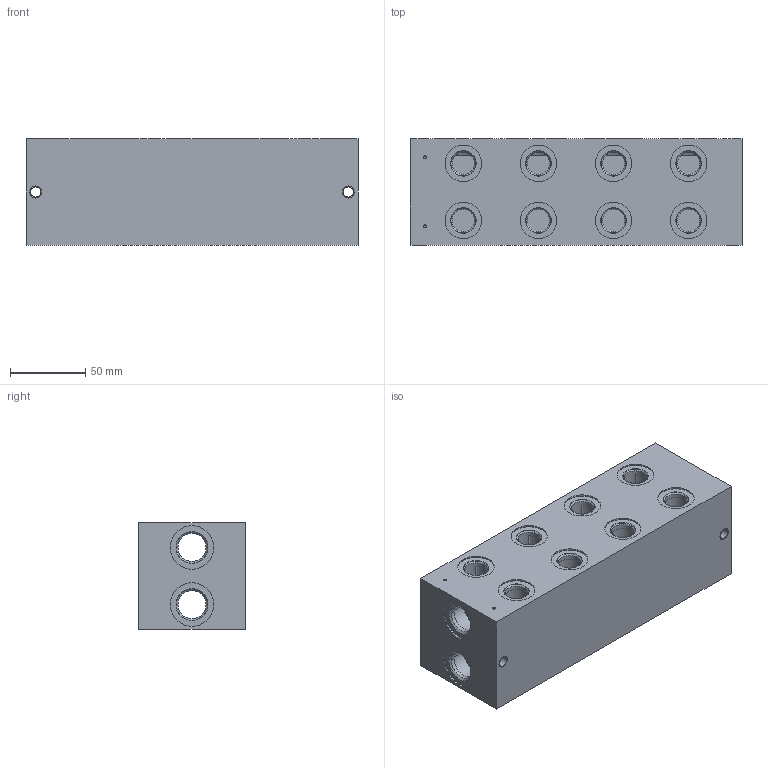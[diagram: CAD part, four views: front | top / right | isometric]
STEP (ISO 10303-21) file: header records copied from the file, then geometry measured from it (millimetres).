
FILE_DESCRIPTION((''),'2;1');
FILE_NAME('27562900','2015-11-27T',('Ahcz.brigadnik05'),(''),'PRO/ENGINEER BY PARAMETRIC TECHNOLOGY CORPORATION, 2015110','PRO/ENGINEER BY PARAMETRIC TECHNOLOGY CORPORATION, 2015110','');
FILE_SCHEMA(('AUTOMOTIVE_DESIGN { 1 0 10303 214 1 1 1 1 }'));
Length unit declared in the file: millimetre
Products named in the file (1): 27562900
Bounding box: 221 x 71 x 71 mm (x, y, z)
Volume: 373398.5 mm3; surface area: 147569.1 mm2
Topology: 1 solids, 35 shells, 298 faces, 1159 edges, 1133 vertices
Faces by surface type: cylinder 202, plane 62, cone 34
Entity records: 16962 total; most frequent: CARTESIAN_POINT 3354, DIRECTION 2161, ORIENTED_EDGE 1492, PRESENTATION_STYLE_ASSIGNMENT 1230, STYLED_ITEM 1230, CURVE_STYLE 1189, EDGE_CURVE 814, AXIS2_PLACEMENT_3D 767
